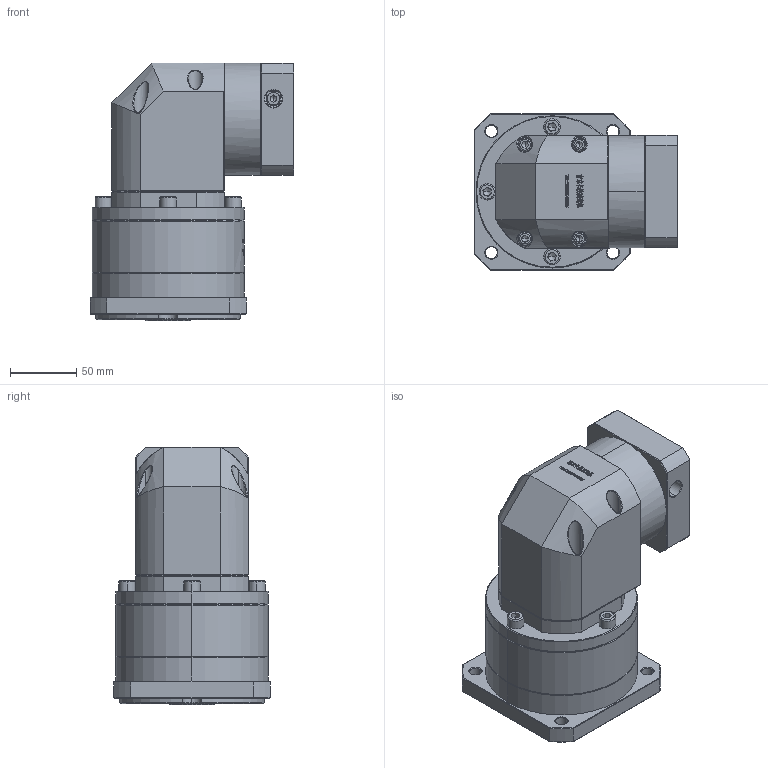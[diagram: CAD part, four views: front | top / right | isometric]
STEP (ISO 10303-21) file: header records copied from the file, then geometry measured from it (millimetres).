
FILE_DESCRIPTION (( 'STEP AP214' ), '1' );
FILE_NAME ('ZFR120A-K25-L2-14-60-75-M6.step', '2023-03-08T05:50:38', ( '' ), ( '' ), 'SwSTEP 2.0', 'SolidWorks 2016', '' );
FILE_SCHEMA (( 'AUTOMOTIVE_DESIGN' ));
Length unit declared in the file: millimetre
Products named in the file (1): ZFR120A-K25-L2-14-60-75-M6
Bounding box: 154.1 x 118 x 195 mm (x, y, z)
Volume: 1816116.9 mm3; surface area: 167953.9 mm2
Topology: 6 solids, 6 shells, 2958 faces, 7838 edges, 5025 vertices
Faces by surface type: plane 1590, bspline 616, cylinder 423, cone 315, torus 14
Entity records: 158468 total; most frequent: CARTESIAN_POINT 58376, ORIENTED_EDGE 15588, DIRECTION 11504, EDGE_CURVE 7794, VERTEX_POINT 5025, LINE 4920, VECTOR 4920, AXIS2_PLACEMENT_3D 3292
